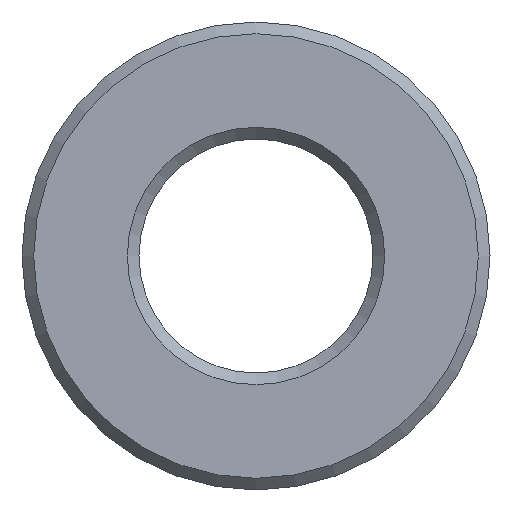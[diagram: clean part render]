
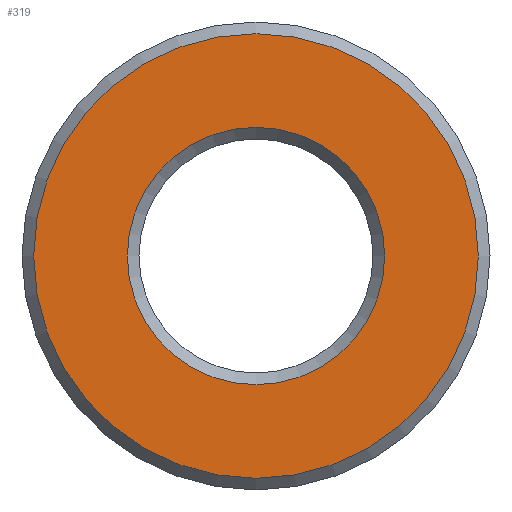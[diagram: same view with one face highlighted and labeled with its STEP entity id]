
A CAD part, left-side view. The second image highlights one B-rep face of the part: STEP entity #319.
In plain terms, the highlighted planar face has unit normal (-1, 0, 0).
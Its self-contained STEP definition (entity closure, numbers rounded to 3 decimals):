
#277=CARTESIAN_POINT('',(-20.0,9.5,0.));
#278=VERTEX_POINT('',#277);
#279=CARTESIAN_POINT('',(-20.0,0.0,0.0));
#280=DIRECTION('',(1.0,0.0,0.0));
#281=DIRECTION('',(0.0,-1.0,0.0));
#282=AXIS2_PLACEMENT_3D('',#279,#280,#281);
#283=CIRCLE('',#282,9.5);
#284=EDGE_CURVE('',#278,#278,#283,.T.);
#300=CARTESIAN_POINT('',(-20.0,7.5,0.0));
#301=DIRECTION('',(-1.0,0.0,0.0));
#302=DIRECTION('',(0.0,0.0,1.0));
#303=AXIS2_PLACEMENT_3D('',#300,#301,#302);
#304=PLANE('',#303);
#305=ORIENTED_EDGE('',*,*,#284,.F.);
#306=EDGE_LOOP('',(#305));
#307=FACE_OUTER_BOUND('',#306,.T.);
#308=CARTESIAN_POINT('',(-20.0,5.5,0.));
#309=VERTEX_POINT('',#308);
#310=CARTESIAN_POINT('',(-20.0,0.0,0.0));
#311=DIRECTION('',(-1.0,0.0,0.0));
#312=DIRECTION('',(0.0,-1.0,0.0));
#313=AXIS2_PLACEMENT_3D('',#310,#311,#312);
#314=CIRCLE('',#313,5.5);
#315=EDGE_CURVE('',#309,#309,#314,.T.);
#316=ORIENTED_EDGE('',*,*,#315,.F.);
#317=EDGE_LOOP('',(#316));
#318=FACE_BOUND('',#317,.T.);
#319=ADVANCED_FACE('',(#307,#318),#304,.T.);
